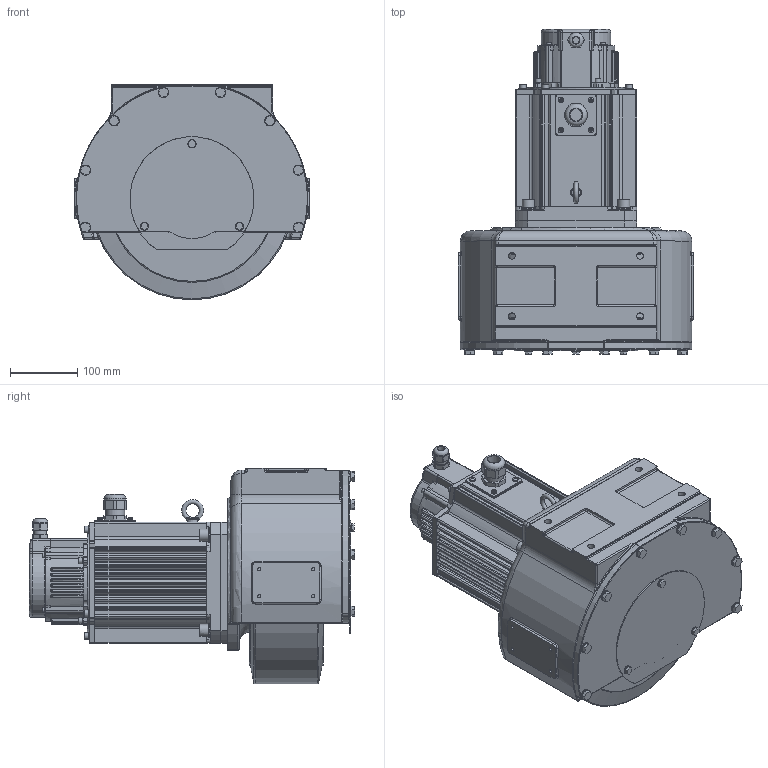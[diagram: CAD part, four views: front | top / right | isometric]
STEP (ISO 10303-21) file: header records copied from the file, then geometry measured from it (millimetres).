
FILE_DESCRIPTION(('STEP AP203'),'1');
FILE_NAME('AWRII220B.stp','2021-04-27T08:04:22',(' '),(' '),'Spatial InterOp 3D',' ',' ');
FILE_SCHEMA(('CONFIG_CONTROL_DESIGN'));
Length unit declared in the file: millimetre
Products named in the file (1): AWRII 220B
Bounding box: 350 x 482.3 x 320 mm (x, y, z)
Volume: 18437350.5 mm3; surface area: 995983.9 mm2
Topology: 1 solids, 28 shells, 2681 faces, 6402 edges, 3856 vertices
Faces by surface type: plane 1340, cylinder 662, cone 371, torus 198, bspline 82, sphere 28
Full cylindrical faces by diameter (mm): 4 x8, 4.2 x2, 4.5 x8, 5 x23, 5.5 x4, 6 x13, 6.5 x8, 6.6 x3, 6.75 x9, 7 x4, 8 x12, 8.5 x4, 9 x8, 10 x9, 10.25 x8, 10.5 x1, 12 x4, 12.5 x8, 13.5 x4, 14 x4, 18 x5, 18.5 x1, 18.6 x1, 22 x1, 28.3 x2, 29 x1, 33 x1, 41 x1, 120 x1, 145 x1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
Entity records: 94978 total; most frequent: CARTESIAN_POINT 34376, DIRECTION 12966, ORIENTED_EDGE 12100, EDGE_CURVE 6050, AXIS2_PLACEMENT_3D 4894, VERTEX_POINT 3751, LINE 3178, VECTOR 3178
